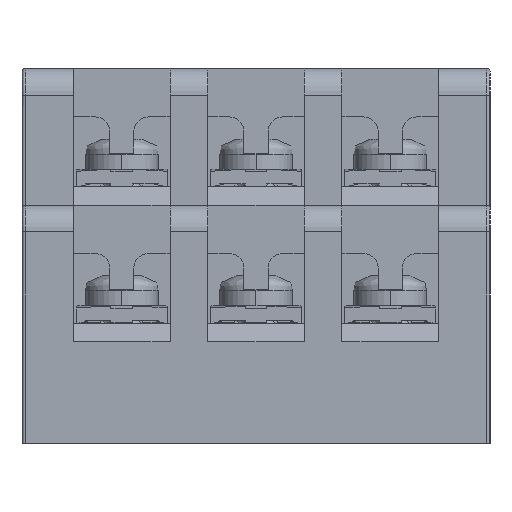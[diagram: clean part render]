
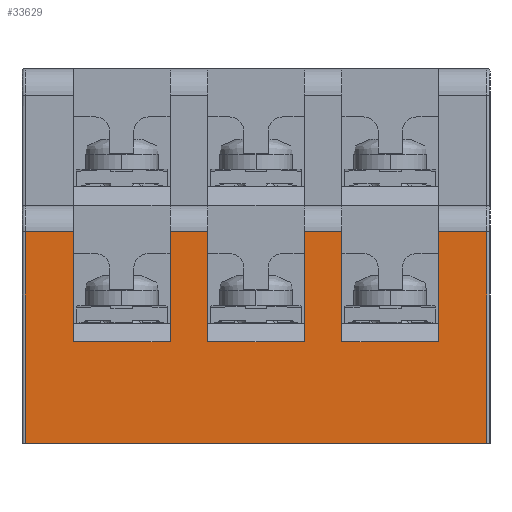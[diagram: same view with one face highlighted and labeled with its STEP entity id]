
A CAD part, left-side view. The second image highlights one B-rep face of the part: STEP entity #33629.
In plain terms, the highlighted planar face has unit normal (-1, 0, 0).
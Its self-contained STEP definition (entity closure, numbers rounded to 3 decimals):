
#777 = DIRECTION ( 'NONE',  ( 0., 1., 0. ) ) ;
#1379 = LINE ( 'NONE', #10137, #71490 ) ;
#2733 = ORIENTED_EDGE ( 'NONE', *, *, #22528, .T. ) ;
#2858 = CARTESIAN_POINT ( 'NONE',  ( -44.524, 19.218, 17.5 ) ) ;
#3825 = ORIENTED_EDGE ( 'NONE', *, *, #29950, .T. ) ;
#5290 = VECTOR ( 'NONE', #777, 1000. ) ;
#5337 = EDGE_CURVE ( 'NONE', #21347, #29653, #56258, .T. ) ;
#5530 = LINE ( 'NONE', #47685, #59188 ) ;
#6463 = VERTEX_POINT ( 'NONE', #21547 ) ;
#6818 = VECTOR ( 'NONE', #8309, 1000. ) ;
#7123 = VERTEX_POINT ( 'NONE', #20741 ) ;
#7874 = VERTEX_POINT ( 'NONE', #71144 ) ;
#7877 = VERTEX_POINT ( 'NONE', #37996 ) ;
#8309 = DIRECTION ( 'NONE',  ( 0., 1., 0. ) ) ;
#8850 = CARTESIAN_POINT ( 'NONE',  ( -44.524, -2.982, 9.9 ) ) ;
#9151 = CARTESIAN_POINT ( 'NONE',  ( -44.524, -10.982, 17.5 ) ) ;
#9226 = ORIENTED_EDGE ( 'NONE', *, *, #5337, .F. ) ;
#10137 = CARTESIAN_POINT ( 'NONE',  ( -44.524, 0.118, 9.9 ) ) ;
#10544 = CARTESIAN_POINT ( 'NONE',  ( -44.524, 11.218, 9.9 ) ) ;
#10990 = VECTOR ( 'NONE', #30606, 1000. ) ;
#11911 = LINE ( 'NONE', #16107, #50851 ) ;
#12386 = CARTESIAN_POINT ( 'NONE',  ( -44.524, -2.982, 17.5 ) ) ;
#13881 = CARTESIAN_POINT ( 'NONE',  ( -44.524, 8.118, 8.4 ) ) ;
#13985 = VECTOR ( 'NONE', #57952, 1000. ) ;
#14437 = DIRECTION ( 'NONE',  ( 0., 0., 1. ) ) ;
#15173 = ORIENTED_EDGE ( 'NONE', *, *, #69334, .T. ) ;
#16107 = CARTESIAN_POINT ( 'NONE',  ( -44.524, -13.632, 17.5 ) ) ;
#16754 = DIRECTION ( 'NONE',  ( 0., 1., 0. ) ) ;
#17176 = AXIS2_PLACEMENT_3D ( 'NONE', #42088, #64340, #31239 ) ;
#17399 = LINE ( 'NONE', #50652, #45073 ) ;
#17893 = ORIENTED_EDGE ( 'NONE', *, *, #70561, .T. ) ;
#18494 = LINE ( 'NONE', #35015, #46173 ) ;
#19480 = VECTOR ( 'NONE', #20938, 1000. ) ;
#19992 = CARTESIAN_POINT ( 'NONE',  ( -44.524, -13.632, 17.5 ) ) ;
#20072 = PLANE ( 'NONE',  #17176 ) ;
#20426 = LINE ( 'NONE', #49887, #49855 ) ;
#20684 = CARTESIAN_POINT ( 'NONE',  ( -44.524, -10.982, 9.9 ) ) ;
#20741 = CARTESIAN_POINT ( 'NONE',  ( -44.524, 23.218, 0. ) ) ;
#20938 = DIRECTION ( 'NONE',  ( 0., 1., 0. ) ) ;
#21108 = CARTESIAN_POINT ( 'NONE',  ( -44.524, -14.982, 0. ) ) ;
#21347 = VERTEX_POINT ( 'NONE', #21934 ) ;
#21547 = CARTESIAN_POINT ( 'NONE',  ( -44.524, 23.218, 17.5 ) ) ;
#21679 = DIRECTION ( 'NONE',  ( 0., 1., 0. ) ) ;
#21934 = CARTESIAN_POINT ( 'NONE',  ( -44.524, 11.218, 8.4 ) ) ;
#22528 = EDGE_CURVE ( 'NONE', #68884, #50987, #58401, .T. ) ;
#23689 = ORIENTED_EDGE ( 'NONE', *, *, #56722, .T. ) ;
#23721 = VERTEX_POINT ( 'NONE', #35565 ) ;
#24975 = EDGE_CURVE ( 'NONE', #50987, #53728, #27003, .T. ) ;
#25120 = VECTOR ( 'NONE', #60367, 1000. ) ;
#25578 = DIRECTION ( 'NONE',  ( 0., 1., 0. ) ) ;
#25742 = LINE ( 'NONE', #13881, #10990 ) ;
#26002 = CARTESIAN_POINT ( 'NONE',  ( -44.524, 8.118, 9.9 ) ) ;
#27003 = LINE ( 'NONE', #8850, #56416 ) ;
#27708 = VECTOR ( 'NONE', #25578, 1000. ) ;
#28475 = VERTEX_POINT ( 'NONE', #21108 ) ;
#29465 = DIRECTION ( 'NONE',  ( 0., 0., 1. ) ) ;
#29653 = VERTEX_POINT ( 'NONE', #70026 ) ;
#29939 = LINE ( 'NONE', #26002, #44605 ) ;
#29950 = EDGE_CURVE ( 'NONE', #70759, #29653, #20426, .T. ) ;
#30606 = DIRECTION ( 'NONE',  ( 0., 1., 0. ) ) ;
#31239 = DIRECTION ( 'NONE',  ( 0., 1., 0. ) ) ;
#32430 = DIRECTION ( 'NONE',  ( 0., 0., 1. ) ) ;
#32458 = ORIENTED_EDGE ( 'NONE', *, *, #66668, .T. ) ;
#33629 = ADVANCED_FACE ( 'NONE', ( #59860 ), #20072, .F. ) ;
#35015 = CARTESIAN_POINT ( 'NONE',  ( -44.524, 19.218, 9.9 ) ) ;
#35565 = CARTESIAN_POINT ( 'NONE',  ( -44.524, 8.118, 8.4 ) ) ;
#35910 = CARTESIAN_POINT ( 'NONE',  ( -44.524, 19.218, 8.4 ) ) ;
#35959 = CARTESIAN_POINT ( 'NONE',  ( -44.524, -13.632, 0. ) ) ;
#36338 = ORIENTED_EDGE ( 'NONE', *, *, #66909, .T. ) ;
#37085 = CARTESIAN_POINT ( 'NONE',  ( -44.524, -2.982, 8.4 ) ) ;
#37396 = DIRECTION ( 'NONE',  ( 0., 0., 1. ) ) ;
#37752 = ORIENTED_EDGE ( 'NONE', *, *, #47533, .T. ) ;
#37996 = CARTESIAN_POINT ( 'NONE',  ( -44.524, 0.118, 8.4 ) ) ;
#37998 = LINE ( 'NONE', #35910, #6818 ) ;
#38217 = EDGE_CURVE ( 'NONE', #62962, #6463, #71854, .T. ) ;
#39486 = CARTESIAN_POINT ( 'NONE',  ( -44.524, -13.632, 17.5 ) ) ;
#42088 = CARTESIAN_POINT ( 'NONE',  ( -44.524, -13.632, 33. ) ) ;
#42219 = EDGE_LOOP ( 'NONE', ( #61222, #17893, #23689, #43620, #32458, #61441, #2733, #59225, #52508, #53117, #36338, #15173, #3825, #9226, #37752, #43503 ) ) ;
#43503 = ORIENTED_EDGE ( 'NONE', *, *, #51951, .T. ) ;
#43620 = ORIENTED_EDGE ( 'NONE', *, *, #57238, .T. ) ;
#44211 = CARTESIAN_POINT ( 'NONE',  ( -44.524, 0.118, 17.5 ) ) ;
#44605 = VECTOR ( 'NONE', #53553, 1000. ) ;
#45073 = VECTOR ( 'NONE', #45551, 1000. ) ;
#45551 = DIRECTION ( 'NONE',  ( 0., 0., 1. ) ) ;
#46173 = VECTOR ( 'NONE', #29465, 1000. ) ;
#47533 = EDGE_CURVE ( 'NONE', #21347, #68713, #37998, .T. ) ;
#47685 = CARTESIAN_POINT ( 'NONE',  ( -44.524, 23.218, 0. ) ) ;
#49432 = LINE ( 'NONE', #39486, #5290 ) ;
#49855 = VECTOR ( 'NONE', #16754, 1000. ) ;
#49887 = CARTESIAN_POINT ( 'NONE',  ( -44.524, -13.632, 17.5 ) ) ;
#50652 = CARTESIAN_POINT ( 'NONE',  ( -44.524, -14.982, 17.5 ) ) ;
#50851 = VECTOR ( 'NONE', #21679, 1000. ) ;
#50987 = VERTEX_POINT ( 'NONE', #37085 ) ;
#51730 = VERTEX_POINT ( 'NONE', #44211 ) ;
#51951 = EDGE_CURVE ( 'NONE', #68713, #62962, #18494, .T. ) ;
#52508 = ORIENTED_EDGE ( 'NONE', *, *, #53672, .T. ) ;
#53117 = ORIENTED_EDGE ( 'NONE', *, *, #61391, .F. ) ;
#53484 = DIRECTION ( 'NONE',  ( 0., 0., -1. ) ) ;
#53553 = DIRECTION ( 'NONE',  ( 0., 0., 1. ) ) ;
#53672 = EDGE_CURVE ( 'NONE', #53728, #51730, #49432, .T. ) ;
#53728 = VERTEX_POINT ( 'NONE', #12386 ) ;
#55056 = CARTESIAN_POINT ( 'NONE',  ( -44.524, -10.982, 8.4 ) ) ;
#56258 = LINE ( 'NONE', #10544, #25120 ) ;
#56416 = VECTOR ( 'NONE', #14437, 1000. ) ;
#56722 = EDGE_CURVE ( 'NONE', #7123, #28475, #59861, .T. ) ;
#56867 = EDGE_CURVE ( 'NONE', #68884, #58447, #62439, .T. ) ;
#57238 = EDGE_CURVE ( 'NONE', #28475, #7874, #17399, .T. ) ;
#57952 = DIRECTION ( 'NONE',  ( 0., -1., 0. ) ) ;
#58401 = LINE ( 'NONE', #59633, #19480 ) ;
#58447 = VERTEX_POINT ( 'NONE', #9151 ) ;
#59188 = VECTOR ( 'NONE', #53484, 1000. ) ;
#59225 = ORIENTED_EDGE ( 'NONE', *, *, #24975, .T. ) ;
#59633 = CARTESIAN_POINT ( 'NONE',  ( -44.524, -2.982, 8.4 ) ) ;
#59860 = FACE_OUTER_BOUND ( 'NONE', #42219, .T. ) ;
#59861 = LINE ( 'NONE', #35959, #13985 ) ;
#60367 = DIRECTION ( 'NONE',  ( 0., 0., 1. ) ) ;
#60696 = VECTOR ( 'NONE', #37396, 1000. ) ;
#61222 = ORIENTED_EDGE ( 'NONE', *, *, #38217, .T. ) ;
#61391 = EDGE_CURVE ( 'NONE', #7877, #51730, #1379, .T. ) ;
#61441 = ORIENTED_EDGE ( 'NONE', *, *, #56867, .F. ) ;
#62148 = CARTESIAN_POINT ( 'NONE',  ( -44.524, 8.118, 17.5 ) ) ;
#62439 = LINE ( 'NONE', #20684, #60696 ) ;
#62962 = VERTEX_POINT ( 'NONE', #2858 ) ;
#64340 = DIRECTION ( 'NONE',  ( 1., 0., 0. ) ) ;
#66668 = EDGE_CURVE ( 'NONE', #7874, #58447, #11911, .T. ) ;
#66909 = EDGE_CURVE ( 'NONE', #7877, #23721, #25742, .T. ) ;
#68713 = VERTEX_POINT ( 'NONE', #69635 ) ;
#68884 = VERTEX_POINT ( 'NONE', #55056 ) ;
#69334 = EDGE_CURVE ( 'NONE', #23721, #70759, #29939, .T. ) ;
#69635 = CARTESIAN_POINT ( 'NONE',  ( -44.524, 19.218, 8.4 ) ) ;
#70026 = CARTESIAN_POINT ( 'NONE',  ( -44.524, 11.218, 17.5 ) ) ;
#70561 = EDGE_CURVE ( 'NONE', #6463, #7123, #5530, .T. ) ;
#70759 = VERTEX_POINT ( 'NONE', #62148 ) ;
#71144 = CARTESIAN_POINT ( 'NONE',  ( -44.524, -14.982, 17.5 ) ) ;
#71490 = VECTOR ( 'NONE', #32430, 1000. ) ;
#71854 = LINE ( 'NONE', #19992, #27708 ) ;
